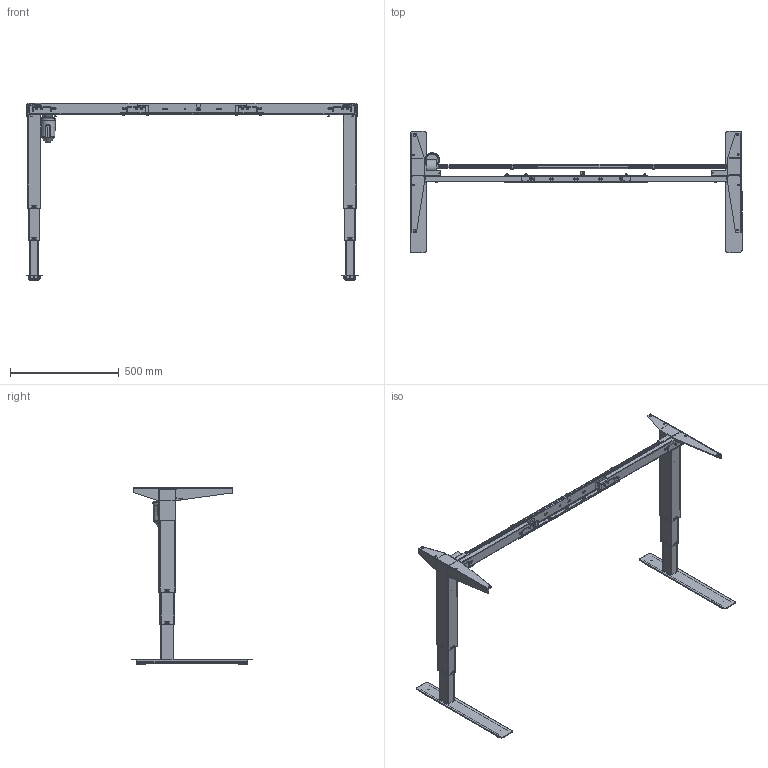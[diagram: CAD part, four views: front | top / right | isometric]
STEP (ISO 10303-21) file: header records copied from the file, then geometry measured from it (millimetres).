
FILE_DESCRIPTION (( 'STEP AP203' ), '1' );
FILE_NAME ('Tech-draw_501-37_XX112-152.STEP', '2019-09-25T11:36:00', ( '' ), ( '' ), 'SwSTEP 2.0', 'SolidWorks 2018', '' );
FILE_SCHEMA (( 'CONFIG_CONTROL_DESIGN' ));
Length unit declared in the file: millimetre
Products named in the file (44): 324420; Tech-draw_501-37_XX112-152; 149010_501-37 XS112-152; 344280; 304650_silver; 138780_silver; 340540_shell view; 352610; 138770_silver; 340760; 148070_silver1; 332570; 344430_silver; 134950_silver1; 348720_shell view; 344070_shell view; 137810; 324520_silver; 341180_shell view; 138750_silver; 343380; 140340_L=152 travers; 341120; 341150_shell view; 138800_silver1; 137820_W5; 343090; 138790_silver1; 300490; 341130; 340580; 340760_zinc; 134920_silver1; 341170_shell view; 344270; 138760_silver; 341800_silver; 341140_shell view; 343080; 344080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
Assembly tree (88 placements, depth 6):
  Tech-draw_501-37_XX112-152
    149010_501-37 XS112-152
      138760_silver
        148070_silver1
          341130
          341180_shell view
          348720_shell view
        138780_silver
          138800_silver1
            341150_shell view
            344070_shell view
            344080
          134950_silver1
            341140_shell view
          341800_silver  x4
        341800_silver  x4
        324520_silver  x2
        344430_silver
        352610
      138750_silver
        134920_silver1
          341120
          341170_shell view
          340540_shell view
        138770_silver
          138790_silver1
            341150_shell view
            344070_shell view
            344080
          134950_silver1
            341140_shell view
          341800_silver  x4
        341800_silver  x4
        324520_silver  x2
      340760  x4
      332570  x4
      149460
        137820_W5
          343340
          137810  x2
            343330
            340580
        140340_L=152 travers
          344270
          344280  x2
          343090  x2
          343080  x2
          324420  x2
          343380
        344390
        340760_zinc  x4
        304650_silver  x5
        300490  x5
Bounding box: 1529 x 560.3 x 817 mm (x, y, z)
Volume: 2845206.2 mm3; surface area: 2640305.5 mm2
Topology: 76 solids, 76 shells, 4150 faces, 10854 edges, 6916 vertices
Faces by surface type: plane 2464, cylinder 1299, bspline 245, torus 73, cone 69
Full cylindrical faces by diameter (mm): 2 x2, 2.8 x4, 3.3 x8, 4.6 x4, 5 x8, 5.5 x1, 6 x24, 6.5 x14, 7 x16, 7.6 x4, 8 x25, 8.4 x2, 10 x12, 12 x1, 13.4 x2, 15 x4, 16 x1, 17 x2, 17.2 x2, 20 x1, 23.2 x2, 37.6 x8, 60 x1
Entity records: 95480 total; most frequent: CARTESIAN_POINT 37626, ORIENTED_EDGE 11012, DIRECTION 10670, EDGE_CURVE 5506, AXIS2_PLACEMENT_3D 3872, VERTEX_POINT 3590, VECTOR 2926, LINE 2926
